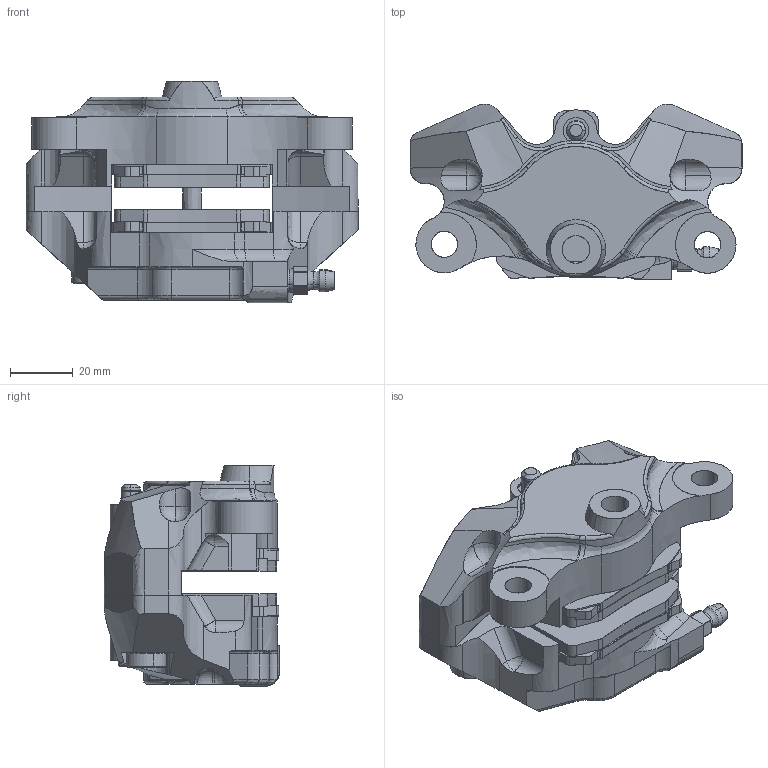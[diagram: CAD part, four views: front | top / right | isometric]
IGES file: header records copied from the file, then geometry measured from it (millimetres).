
Start section: SolidWorks IGES file using analytic representation for surfaces
Bounding box: 106 x 56.05 x 70.6 mm (x, y, z)
Surface area: 53676.5 mm2 (no closed solid volume)
Topology: 0 solids, 0 shells, 599 faces, 8004 edges, 7987 vertices
Faces by surface type: bspline 300, revolution 299
